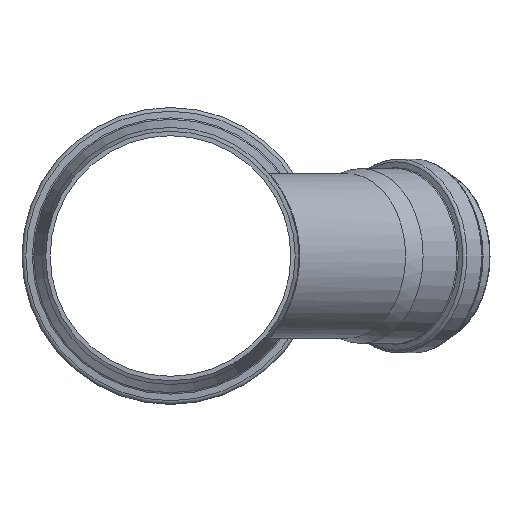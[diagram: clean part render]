
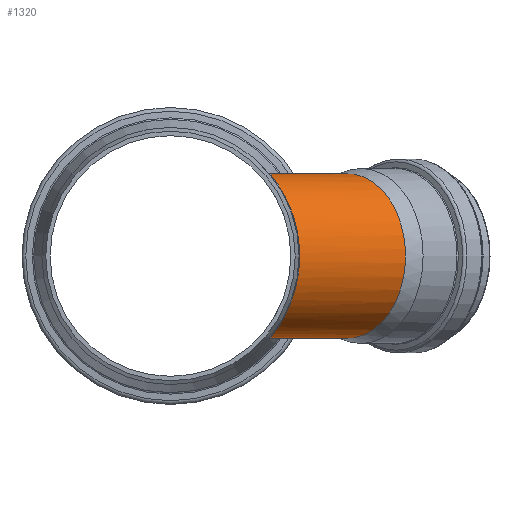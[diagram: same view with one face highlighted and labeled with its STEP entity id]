
A CAD part, front view. The second image highlights one B-rep face of the part: STEP entity #1320.
In plain terms, the highlighted cylindrical face has radius 80.1 mm (diameter 160.2 mm), a partial arc.
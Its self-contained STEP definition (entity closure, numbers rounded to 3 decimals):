
#160=CIRCLE('',#1424,80.1);
#307=CYLINDRICAL_SURFACE('',#1428,80.1);
#332=FACE_OUTER_BOUND('',#409,.T.);
#409=EDGE_LOOP('',(#944,#945,#946,#947));
#495=B_SPLINE_CURVE_WITH_KNOTS('',3,(#2868,#2869,#2870,#2871,#2872,#2873,
#2874,#2875),.UNSPECIFIED.,.F.,.F.,(4,2,2,4),(1.269,1.279,
1.289,1.301),.UNSPECIFIED.);
#501=B_SPLINE_CURVE_WITH_KNOTS('',3,(#3289,#3290,#3291,#3292,#3293,#3294,
#3295,#3296,#3297,#3298,#3299,#3300,#3301,#3302,#3303,#3304,#3305,#3306,
#3307,#3308,#3309,#3310,#3311,#3312,#3313,#3314,#3315),.UNSPECIFIED.,.F.,
 .F.,(4,1,1,1,1,1,1,1,1,1,1,1,1,1,1,1,1,1,1,1,1,1,1,1,4),(36.911,
38.893,40.876,44.844,47.489,50.134,
52.778,55.423,56.746,58.068,60.713,
63.358,66.003,68.648,71.293,72.616,
73.938,75.26,76.583,79.228,81.873,
84.518,88.485,90.469,92.45),
 .UNSPECIFIED.);
#504=B_SPLINE_CURVE_WITH_KNOTS('',3,(#3427,#3428,#3429,#3430,#3431,#3432,
#3433,#3434,#3435,#3436,#3437,#3438,#3439,#3440,#3441,#3442),
 .UNSPECIFIED.,.F.,.F.,(4,3,3,3,3,4),(0.,0.013,0.023,
0.039,0.04,0.041),.UNSPECIFIED.);
#527=VERTEX_POINT('',#2861);
#528=VERTEX_POINT('',#2867);
#533=VERTEX_POINT('',#3288);
#535=VERTEX_POINT('',#3426);
#679=EDGE_CURVE('',#528,#527,#495,.T.);
#685=EDGE_CURVE('',#528,#533,#501,.T.);
#688=EDGE_CURVE('',#535,#533,#504,.T.);
#691=EDGE_CURVE('',#535,#527,#160,.T.);
#944=ORIENTED_EDGE('',*,*,#679,.T.);
#945=ORIENTED_EDGE('',*,*,#691,.F.);
#946=ORIENTED_EDGE('',*,*,#688,.T.);
#947=ORIENTED_EDGE('',*,*,#685,.F.);
#1320=ADVANCED_FACE('',(#332),#307,.T.);
#1424=AXIS2_PLACEMENT_3D('',#3454,#1670,#1671);
#1428=AXIS2_PLACEMENT_3D('',#3462,#1680,#1681);
#1670=DIRECTION('center_axis',(0.707,0.707,0.));
#1671=DIRECTION('ref_axis',(0.707,-0.707,0.));
#1680=DIRECTION('center_axis',(0.707,0.707,0.));
#1681=DIRECTION('ref_axis',(0.707,-0.707,0.));
#2861=CARTESIAN_POINT('',(122.476,415.822,-38.414));
#2867=CARTESIAN_POINT('',(122.254,415.855,-38.084));
#2868=CARTESIAN_POINT('Ctrl Pts',(122.254,415.855,-38.084));
#2869=CARTESIAN_POINT('Ctrl Pts',(122.288,415.867,-38.111));
#2870=CARTESIAN_POINT('Ctrl Pts',(122.318,415.873,-38.143));
#2871=CARTESIAN_POINT('Ctrl Pts',(122.373,415.874,-38.213));
#2872=CARTESIAN_POINT('Ctrl Pts',(122.396,415.87,-38.249));
#2873=CARTESIAN_POINT('Ctrl Pts',(122.44,415.852,-38.328));
#2874=CARTESIAN_POINT('Ctrl Pts',(122.459,415.838,-38.371));
#2875=CARTESIAN_POINT('Ctrl Pts',(122.476,415.822,-38.414));
#3288=CARTESIAN_POINT('',(122.254,415.855,38.084));
#3289=CARTESIAN_POINT('Ctrl Pts',(122.254,415.855,-38.084));
#3290=CARTESIAN_POINT('Ctrl Pts',(120.804,411.148,-42.345));
#3291=CARTESIAN_POINT('Ctrl Pts',(117.709,400.9,-49.899));
#3292=CARTESIAN_POINT('Ctrl Pts',(111.36,378.536,-62.023));
#3293=CARTESIAN_POINT('Ctrl Pts',(104.815,352.416,-71.404));
#3294=CARTESIAN_POINT('Ctrl Pts',(99.405,322.981,-77.864));
#3295=CARTESIAN_POINT('Ctrl Pts',(96.728,297.,-80.603));
#3296=CARTESIAN_POINT('Ctrl Pts',(97.217,270.744,-79.677));
#3297=CARTESIAN_POINT('Ctrl Pts',(101.582,249.953,-74.089));
#3298=CARTESIAN_POINT('Ctrl Pts',(107.065,235.712,-65.839));
#3299=CARTESIAN_POINT('Ctrl Pts',(113.171,223.509,-55.201));
#3300=CARTESIAN_POINT('Ctrl Pts',(120.667,212.547,-37.869));
#3301=CARTESIAN_POINT('Ctrl Pts',(125.952,206.135,-13.075));
#3302=CARTESIAN_POINT('Ctrl Pts',(125.955,206.135,13.067));
#3303=CARTESIAN_POINT('Ctrl Pts',(120.667,212.543,37.864));
#3304=CARTESIAN_POINT('Ctrl Pts',(113.18,223.505,55.192));
#3305=CARTESIAN_POINT('Ctrl Pts',(107.06,235.706,65.839));
#3306=CARTESIAN_POINT('Ctrl Pts',(102.97,246.387,72.015));
#3307=CARTESIAN_POINT('Ctrl Pts',(99.818,258.26,76.334));
#3308=CARTESIAN_POINT('Ctrl Pts',(97.156,275.111,79.819));
#3309=CARTESIAN_POINT('Ctrl Pts',(96.716,296.994,80.612));
#3310=CARTESIAN_POINT('Ctrl Pts',(99.409,322.973,77.862));
#3311=CARTESIAN_POINT('Ctrl Pts',(104.81,352.414,71.408));
#3312=CARTESIAN_POINT('Ctrl Pts',(111.363,378.541,62.02));
#3313=CARTESIAN_POINT('Ctrl Pts',(117.707,400.896,49.901));
#3314=CARTESIAN_POINT('Ctrl Pts',(120.805,411.148,42.345));
#3315=CARTESIAN_POINT('Ctrl Pts',(122.254,415.855,38.084));
#3426=CARTESIAN_POINT('',(122.476,415.822,38.414));
#3427=CARTESIAN_POINT('Ctrl Pts',(122.476,415.822,38.414));
#3428=CARTESIAN_POINT('Ctrl Pts',(122.461,415.837,38.375));
#3429=CARTESIAN_POINT('Ctrl Pts',(122.443,415.85,38.336));
#3430=CARTESIAN_POINT('Ctrl Pts',(122.422,415.859,38.297));
#3431=CARTESIAN_POINT('Ctrl Pts',(122.407,415.866,38.268));
#3432=CARTESIAN_POINT('Ctrl Pts',(122.39,415.871,38.24));
#3433=CARTESIAN_POINT('Ctrl Pts',(122.371,415.873,38.212));
#3434=CARTESIAN_POINT('Ctrl Pts',(122.342,415.876,38.171));
#3435=CARTESIAN_POINT('Ctrl Pts',(122.309,415.872,38.133));
#3436=CARTESIAN_POINT('Ctrl Pts',(122.273,415.861,38.1));
#3437=CARTESIAN_POINT('Ctrl Pts',(122.27,415.86,38.097));
#3438=CARTESIAN_POINT('Ctrl Pts',(122.267,415.859,38.095));
#3439=CARTESIAN_POINT('Ctrl Pts',(122.265,415.858,38.093));
#3440=CARTESIAN_POINT('Ctrl Pts',(122.261,415.857,38.09));
#3441=CARTESIAN_POINT('Ctrl Pts',(122.258,415.856,38.087));
#3442=CARTESIAN_POINT('Ctrl Pts',(122.254,415.855,38.084));
#3454=CARTESIAN_POINT('Origin',(172.176,366.121,0.));
#3462=CARTESIAN_POINT('Origin',(86.116,280.061,0.));
